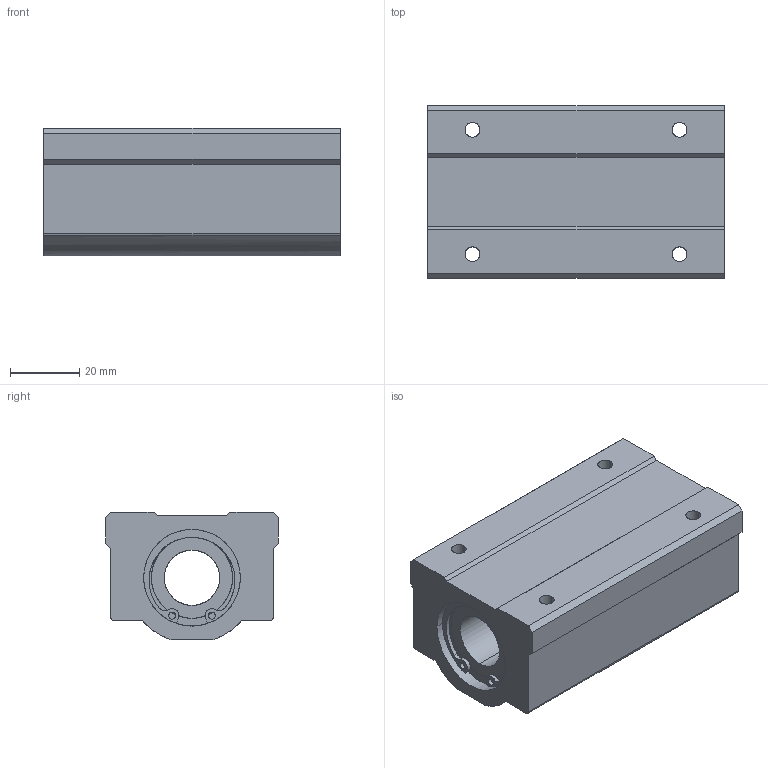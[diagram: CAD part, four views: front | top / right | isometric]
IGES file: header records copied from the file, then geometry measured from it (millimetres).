
Global section: file name: No Iges File Name specified; native system: AutoDesk Inventor R10; preprocessor: AutoDesk Inventor Iges Exporter R10; author: No Author specified; organization: No Organization specified; date: 20101216.173625; units: millimetre
Bounding box: 86 x 50 x 37 mm (x, y, z)
Surface area: 23849.1 mm2 (no closed solid volume)
Topology: 0 solids, 0 shells, 98 faces, 680 edges, 680 vertices
Faces by surface type: bspline 98
